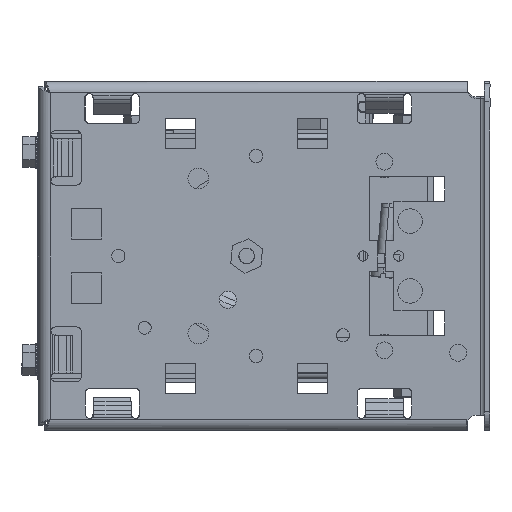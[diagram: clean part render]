
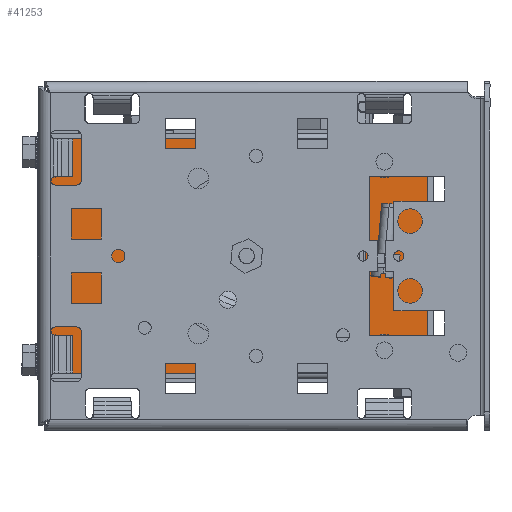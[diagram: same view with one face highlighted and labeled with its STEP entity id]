
A CAD part, front view. The second image highlights one B-rep face of the part: STEP entity #41253.
In plain terms, the highlighted planar face has unit normal (0, -1, 0) as drawn and (0, 0, -1) by its records, which use the part's own axes.
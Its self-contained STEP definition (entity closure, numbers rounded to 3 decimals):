
#40766 = VERTEX_POINT ( 'NONE', #240087 ) ;
#40865 = ORIENTED_EDGE ( 'NONE', *, *, #41190, .F. ) ;
#40998 = VERTEX_POINT ( 'NONE', #240735 ) ;
#41067 = EDGE_CURVE ( 'NONE', #40766, #40998, #240828, .T. ) ;
#41138 = VERTEX_POINT ( 'NONE', #241179 ) ;
#41168 = ORIENTED_EDGE ( 'NONE', *, *, #41345, .F. ) ;
#41177 = EDGE_CURVE ( 'NONE', #40998, #41138, #241270, .T. ) ;
#41190 = EDGE_CURVE ( 'NONE', #41233, #41235, #241467, .T. ) ;
#41233 = VERTEX_POINT ( 'NONE', #241386 ) ;
#41235 = VERTEX_POINT ( 'NONE', #241569 ) ;
#41253 = ADVANCED_FACE ( 'NONE', ( #241498 ), #241532, .T. ) ;
#41257 = EDGE_LOOP ( 'NONE', ( #40865, #41497, #41168, #41529, #41474, #41498 ) ) ;
#41345 = EDGE_CURVE ( 'NONE', #41138, #41398, #241993, .T. ) ;
#41398 = VERTEX_POINT ( 'NONE', #241985 ) ;
#41460 = EDGE_CURVE ( 'NONE', #41398, #41233, #242266, .T. ) ;
#41474 = ORIENTED_EDGE ( 'NONE', *, *, #41067, .F. ) ;
#41497 = ORIENTED_EDGE ( 'NONE', *, *, #41460, .F. ) ;
#41498 = ORIENTED_EDGE ( 'NONE', *, *, #41530, .F. ) ;
#41529 = ORIENTED_EDGE ( 'NONE', *, *, #41177, .F. ) ;
#41530 = EDGE_CURVE ( 'NONE', #41235, #40766, #242291, .T. ) ;
#240087 = CARTESIAN_POINT ( 'NONE',  ( -32.75, 1.5, -1. ) ) ;
#240735 = CARTESIAN_POINT ( 'NONE',  ( -31.25, 0., -1. ) ) ;
#240828 = LINE ( 'NONE', #241032, #241026 ) ;
#241024 = DIRECTION ( 'NONE',  ( 0.707, -0.707, 0. ) ) ;
#241026 = VECTOR ( 'NONE', #241024, 1000. ) ;
#241032 = CARTESIAN_POINT ( 'NONE',  ( -32.75, 1.5, -1. ) ) ;
#241179 = CARTESIAN_POINT ( 'NONE',  ( 31.25, 0., -1. ) ) ;
#241262 = DIRECTION ( 'NONE',  ( 1., 0., 0. ) ) ;
#241265 = VECTOR ( 'NONE', #241262, 1000. ) ;
#241268 = CARTESIAN_POINT ( 'NONE',  ( -31.25, 0., -1. ) ) ;
#241270 = LINE ( 'NONE', #241268, #241265 ) ;
#241386 = CARTESIAN_POINT ( 'NONE',  ( 32.75, 101., -1. ) ) ;
#241461 = DIRECTION ( 'NONE',  ( -1., 0., 0. ) ) ;
#241463 = VECTOR ( 'NONE', #241461, 1000. ) ;
#241465 = CARTESIAN_POINT ( 'NONE',  ( 32.75, 101., -1. ) ) ;
#241467 = LINE ( 'NONE', #241465, #241463 ) ;
#241488 = DIRECTION ( 'NONE',  ( 0., 0., -1. ) ) ;
#241490 = CARTESIAN_POINT ( 'NONE',  ( 32.75, 221.5, -1. ) ) ;
#241498 = FACE_OUTER_BOUND ( 'NONE', #41257, .T. ) ;
#241508 = AXIS2_PLACEMENT_3D ( 'NONE', #241490, #241488, #241723 ) ;
#241532 = PLANE ( 'NONE',  #241508 ) ;
#241569 = CARTESIAN_POINT ( 'NONE',  ( -32.75, 101., -1. ) ) ;
#241723 = DIRECTION ( 'NONE',  ( -1., 0., 0. ) ) ;
#241971 = DIRECTION ( 'NONE',  ( 0.707, 0.707, 0. ) ) ;
#241973 = VECTOR ( 'NONE', #241971, 1000. ) ;
#241976 = CARTESIAN_POINT ( 'NONE',  ( 31.25, 0., -1. ) ) ;
#241985 = CARTESIAN_POINT ( 'NONE',  ( 32.75, 1.5, -1. ) ) ;
#241993 = LINE ( 'NONE', #241976, #241973 ) ;
#242180 = DIRECTION ( 'NONE',  ( 0., 1., 0. ) ) ;
#242181 = VECTOR ( 'NONE', #242180, 1000. ) ;
#242184 = CARTESIAN_POINT ( 'NONE',  ( 32.75, 220., -1. ) ) ;
#242266 = LINE ( 'NONE', #242184, #242181 ) ;
#242289 = CARTESIAN_POINT ( 'NONE',  ( -32.75, 220., -1. ) ) ;
#242291 = LINE ( 'NONE', #242289, #242535 ) ;
#242531 = DIRECTION ( 'NONE',  ( 0., -1., 0. ) ) ;
#242535 = VECTOR ( 'NONE', #242531, 1000. ) ;
